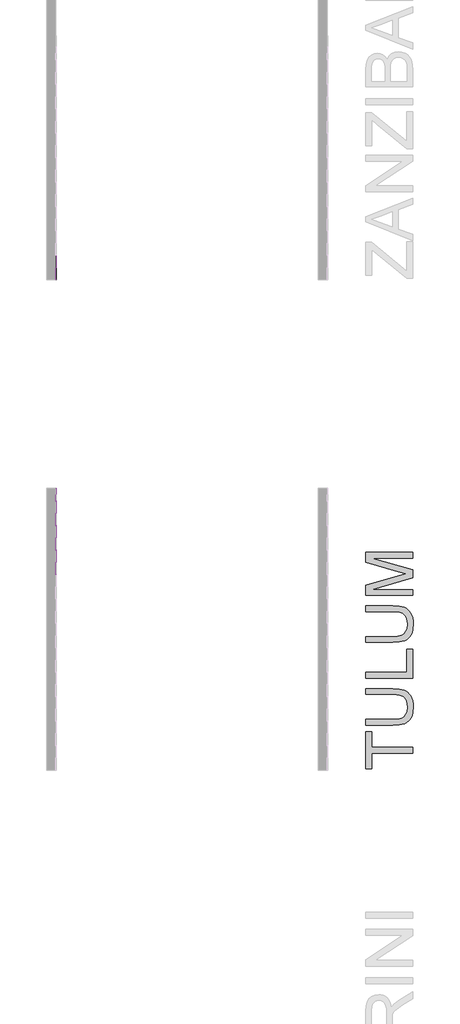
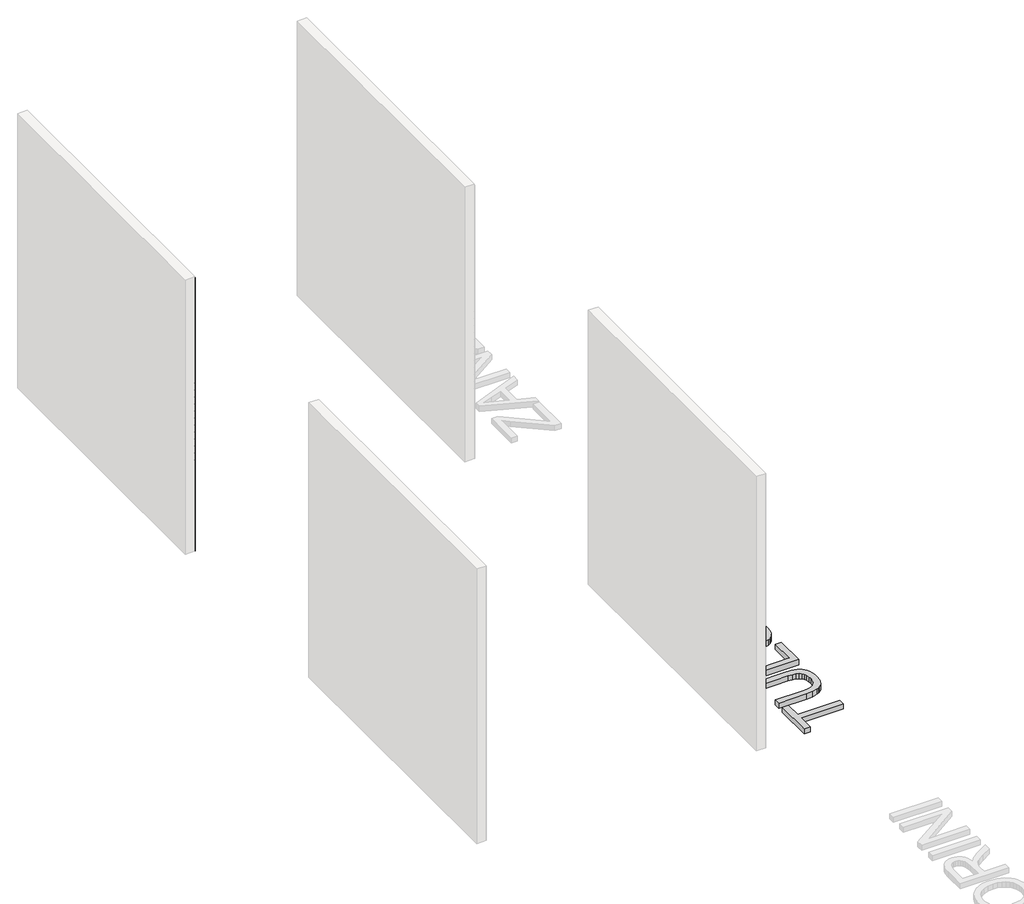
# One storey, part 36 of 45: 134 proxies.
"""IFC4 building model written with IfcOpenShell, lengths in millimetres."""

from ifc_helpers import new_model, si_unit, origin, origin_with_axes, place, context, project, spatial, polyline, outline, extrude, transform, mapped, element, save
from components import generic_models_ab0f2c30, generic_models_8360c89e

model = new_model("IFC4")

# Units and contexts
model_context = context("Model", 3, world=origin())
ifc_project = project(units=[si_unit("LENGTHUNIT", "METRE", prefix="MILLI")], contexts=[model_context])

# Site, building, storey
site = spatial("IfcSite", under=ifc_project)
building = spatial("IfcBuilding", under=site)
storey = spatial("IfcBuildingStorey", under=building, Name="PORTOBELLO - SHOWROOM", Elevation=0.0)

# Proxies
placement = place(None, origin())
generic_models_shape = generic_models_ab0f2c30(model_context)
element("IfcBuildingElementProxy", 1, Name="PBSHOP - HORIZONTES TULUM 6,5X23 : TULUM", ObjectType="PBSHOP - HORIZONTES TULUM 6,5X23 : TULUM", at=placement, inside=storey, context=model_context, shape_type="MappedRepresentation", body=[
    mapped(generic_models_shape, transform((69111.8826867, 16122.0588567, 34.5), x_axis=(0.0, 0.0, 1.0), y_axis=(0.0, -1.0, 0.0), z_axis=(1.0, 0.0, 0.0))),
])
element("IfcBuildingElementProxy", 2, Name="PBSHOP - HORIZONTES TULUM 6,5X23 : TULUM", ObjectType="PBSHOP - HORIZONTES TULUM 6,5X23 : TULUM", at=placement, inside=storey, context=model_context, shape_type="MappedRepresentation", body=[
    mapped(generic_models_shape, transform((69111.8826867, 16356.0588567, 34.5), x_axis=(0.0, 0.0, 1.0), y_axis=(0.0, -1.0, 0.0), z_axis=(1.0, 0.0, 0.0))),
])
element("IfcBuildingElementProxy", 3, Name="PBSHOP - HORIZONTES TULUM 6,5X23 : TULUM", ObjectType="PBSHOP - HORIZONTES TULUM 6,5X23 : TULUM", at=placement, inside=storey, context=model_context, shape_type="MappedRepresentation", body=[
    mapped(generic_models_shape, transform((69111.8826867, 16590.0588567, 34.5), x_axis=(0.0, 0.0, 1.0), y_axis=(0.0, -1.0, 0.0), z_axis=(1.0, 0.0, 0.0))),
])
element("IfcBuildingElementProxy", 4, Name="PBSHOP - HORIZONTES TULUM 6,5X23 : TULUM", ObjectType="PBSHOP - HORIZONTES TULUM 6,5X23 : TULUM", at=placement, inside=storey, context=model_context, shape_type="MappedRepresentation", body=[
    mapped(generic_models_shape, transform((69111.8826867, 16824.0588567, 34.5), x_axis=(0.0, 0.0, 1.0), y_axis=(0.0, -1.0, 0.0), z_axis=(1.0, 0.0, 0.0))),
])
element("IfcBuildingElementProxy", 5, Name="PBSHOP - HORIZONTES TULUM 6,5X23 : TULUM", ObjectType="PBSHOP - HORIZONTES TULUM 6,5X23 : TULUM", at=placement, inside=storey, context=model_context, shape_type="MappedRepresentation", body=[
    mapped(generic_models_shape, transform((69111.8826867, 16122.0588567, 103.5), x_axis=(0.0, 0.0, 1.0), y_axis=(0.0, -1.0, 0.0), z_axis=(1.0, 0.0, 0.0))),
])
element("IfcBuildingElementProxy", 6, Name="PBSHOP - HORIZONTES TULUM 6,5X23 : TULUM", ObjectType="PBSHOP - HORIZONTES TULUM 6,5X23 : TULUM", at=placement, inside=storey, context=model_context, shape_type="MappedRepresentation", body=[
    mapped(generic_models_shape, transform((69111.8826867, 16356.0588567, 103.5), x_axis=(0.0, 0.0, 1.0), y_axis=(0.0, -1.0, 0.0), z_axis=(1.0, 0.0, 0.0))),
])
element("IfcBuildingElementProxy", 7, Name="PBSHOP - HORIZONTES TULUM 6,5X23 : TULUM", ObjectType="PBSHOP - HORIZONTES TULUM 6,5X23 : TULUM", at=placement, inside=storey, context=model_context, shape_type="MappedRepresentation", body=[
    mapped(generic_models_shape, transform((69111.8826867, 16590.0588567, 103.5), x_axis=(0.0, 0.0, 1.0), y_axis=(0.0, -1.0, 0.0), z_axis=(1.0, 0.0, 0.0))),
])
element("IfcBuildingElementProxy", 8, Name="PBSHOP - HORIZONTES TULUM 6,5X23 : TULUM", ObjectType="PBSHOP - HORIZONTES TULUM 6,5X23 : TULUM", at=placement, inside=storey, context=model_context, shape_type="MappedRepresentation", body=[
    mapped(generic_models_shape, transform((69111.8826867, 16824.0588567, 103.5), x_axis=(0.0, 0.0, 1.0), y_axis=(0.0, -1.0, 0.0), z_axis=(1.0, 0.0, 0.0))),
])
element("IfcBuildingElementProxy", 9, Name="PBSHOP - HORIZONTES TULUM 6,5X23 : TULUM", ObjectType="PBSHOP - HORIZONTES TULUM 6,5X23 : TULUM", at=placement, inside=storey, context=model_context, shape_type="MappedRepresentation", body=[
    mapped(generic_models_shape, transform((69111.8826867, 16122.0588567, 172.5), x_axis=(0.0, 0.0, 1.0), y_axis=(0.0, -1.0, 0.0), z_axis=(1.0, 0.0, 0.0))),
])
element("IfcBuildingElementProxy", 10, Name="PBSHOP - HORIZONTES TULUM 6,5X23 : TULUM", ObjectType="PBSHOP - HORIZONTES TULUM 6,5X23 : TULUM", at=placement, inside=storey, context=model_context, shape_type="MappedRepresentation", body=[
    mapped(generic_models_shape, transform((69111.8826867, 16356.0588567, 172.5), x_axis=(0.0, 0.0, 1.0), y_axis=(0.0, -1.0, 0.0), z_axis=(1.0, 0.0, 0.0))),
])
element("IfcBuildingElementProxy", 11, Name="PBSHOP - HORIZONTES TULUM 6,5X23 : TULUM", ObjectType="PBSHOP - HORIZONTES TULUM 6,5X23 : TULUM", at=placement, inside=storey, context=model_context, shape_type="MappedRepresentation", body=[
    mapped(generic_models_shape, transform((69111.8826867, 16590.0588567, 172.5), x_axis=(0.0, 0.0, 1.0), y_axis=(0.0, -1.0, 0.0), z_axis=(1.0, 0.0, 0.0))),
])
element("IfcBuildingElementProxy", 12, Name="PBSHOP - HORIZONTES TULUM 6,5X23 : TULUM", ObjectType="PBSHOP - HORIZONTES TULUM 6,5X23 : TULUM", at=placement, inside=storey, context=model_context, shape_type="MappedRepresentation", body=[
    mapped(generic_models_shape, transform((69111.8826867, 16824.0588567, 172.5), x_axis=(0.0, 0.0, 1.0), y_axis=(0.0, -1.0, 0.0), z_axis=(1.0, 0.0, 0.0))),
])
element("IfcBuildingElementProxy", 13, Name="PBSHOP - HORIZONTES TULUM 6,5X23 : TULUM", ObjectType="PBSHOP - HORIZONTES TULUM 6,5X23 : TULUM", at=placement, inside=storey, context=model_context, shape_type="MappedRepresentation", body=[
    mapped(generic_models_shape, transform((69111.8826867, 16122.0588567, 241.5), x_axis=(0.0, 0.0, 1.0), y_axis=(0.0, -1.0, 0.0), z_axis=(1.0, 0.0, 0.0))),
])
element("IfcBuildingElementProxy", 14, Name="PBSHOP - HORIZONTES TULUM 6,5X23 : TULUM", ObjectType="PBSHOP - HORIZONTES TULUM 6,5X23 : TULUM", at=placement, inside=storey, context=model_context, shape_type="MappedRepresentation", body=[
    mapped(generic_models_shape, transform((69111.8826867, 16356.0588567, 241.5), x_axis=(0.0, 0.0, 1.0), y_axis=(0.0, -1.0, 0.0), z_axis=(1.0, 0.0, 0.0))),
])
element("IfcBuildingElementProxy", 15, Name="PBSHOP - HORIZONTES TULUM 6,5X23 : TULUM", ObjectType="PBSHOP - HORIZONTES TULUM 6,5X23 : TULUM", at=placement, inside=storey, context=model_context, shape_type="MappedRepresentation", body=[
    mapped(generic_models_shape, transform((69111.8826867, 16590.0588567, 241.5), x_axis=(0.0, 0.0, 1.0), y_axis=(0.0, -1.0, 0.0), z_axis=(1.0, 0.0, 0.0))),
])
element("IfcBuildingElementProxy", 16, Name="PBSHOP - HORIZONTES TULUM 6,5X23 : TULUM", ObjectType="PBSHOP - HORIZONTES TULUM 6,5X23 : TULUM", at=placement, inside=storey, context=model_context, shape_type="MappedRepresentation", body=[
    mapped(generic_models_shape, transform((69111.8826867, 16824.0588567, 241.5), x_axis=(0.0, 0.0, 1.0), y_axis=(0.0, -1.0, 0.0), z_axis=(1.0, 0.0, 0.0))),
])
element("IfcBuildingElementProxy", 17, Name="PBSHOP - HORIZONTES TULUM 6,5X23 : TULUM", ObjectType="PBSHOP - HORIZONTES TULUM 6,5X23 : TULUM", at=placement, inside=storey, context=model_context, shape_type="MappedRepresentation", body=[
    mapped(generic_models_shape, transform((69111.8826867, 16122.0588567, 310.5), x_axis=(0.0, 0.0, 1.0), y_axis=(0.0, -1.0, 0.0), z_axis=(1.0, 0.0, 0.0))),
])
element("IfcBuildingElementProxy", 18, Name="PBSHOP - HORIZONTES TULUM 6,5X23 : TULUM", ObjectType="PBSHOP - HORIZONTES TULUM 6,5X23 : TULUM", at=placement, inside=storey, context=model_context, shape_type="MappedRepresentation", body=[
    mapped(generic_models_shape, transform((69111.8826867, 16356.0588567, 310.5), x_axis=(0.0, 0.0, 1.0), y_axis=(0.0, -1.0, 0.0), z_axis=(1.0, 0.0, 0.0))),
])
element("IfcBuildingElementProxy", 19, Name="PBSHOP - HORIZONTES TULUM 6,5X23 : TULUM AGAVE", ObjectType="PBSHOP - HORIZONTES TULUM 6,5X23 : TULUM AGAVE", at=placement, inside=storey, context=model_context, shape_type="MappedRepresentation", body=[
    mapped(generic_models_shape, transform((66511.8826867, 17058.0588567, 1414.5), x_axis=(0.0, 0.0, 1.0), y_axis=(0.0, -1.0, 0.0), z_axis=(1.0, 0.0, 0.0))),
])
element("IfcBuildingElementProxy", 20, Name="PBSHOP - HORIZONTES TULUM 6,5X23 : TULUM AGAVE", ObjectType="PBSHOP - HORIZONTES TULUM 6,5X23 : TULUM AGAVE", at=placement, inside=storey, context=model_context, shape_type="MappedRepresentation", body=[
    mapped(generic_models_shape, transform((66511.8826867, 17292.0588567, 1414.5), x_axis=(0.0, 0.0, 1.0), y_axis=(0.0, -1.0, 0.0), z_axis=(1.0, 0.0, 0.0))),
])
element("IfcBuildingElementProxy", 21, Name="PBSHOP - HORIZONTES TULUM 6,5X23 : TULUM AGAVE", ObjectType="PBSHOP - HORIZONTES TULUM 6,5X23 : TULUM AGAVE", at=placement, inside=storey, context=model_context, shape_type="MappedRepresentation", body=[
    mapped(generic_models_shape, transform((66511.8826867, 17526.0588567, 1414.5), x_axis=(0.0, 0.0, 1.0), y_axis=(0.0, -1.0, 0.0), z_axis=(1.0, 0.0, 0.0))),
])
element("IfcBuildingElementProxy", 22, Name="PBSHOP - HORIZONTES TULUM 6,5X23 : TULUM AGAVE", ObjectType="PBSHOP - HORIZONTES TULUM 6,5X23 : TULUM AGAVE", at=placement, inside=storey, context=model_context, shape_type="MappedRepresentation", body=[
    mapped(generic_models_shape, transform((66511.8826867, 17058.0588567, 1483.5), x_axis=(0.0, 0.0, 1.0), y_axis=(0.0, -1.0, 0.0), z_axis=(1.0, 0.0, 0.0))),
])
element("IfcBuildingElementProxy", 23, Name="PBSHOP - HORIZONTES TULUM 6,5X23 : TULUM AGAVE", ObjectType="PBSHOP - HORIZONTES TULUM 6,5X23 : TULUM AGAVE", at=placement, inside=storey, context=model_context, shape_type="MappedRepresentation", body=[
    mapped(generic_models_shape, transform((66511.8826867, 17292.0588567, 1483.5), x_axis=(0.0, 0.0, 1.0), y_axis=(0.0, -1.0, 0.0), z_axis=(1.0, 0.0, 0.0))),
])
element("IfcBuildingElementProxy", 24, Name="PBSHOP - HORIZONTES TULUM 6,5X23 : TULUM AGAVE", ObjectType="PBSHOP - HORIZONTES TULUM 6,5X23 : TULUM AGAVE", at=placement, inside=storey, context=model_context, shape_type="MappedRepresentation", body=[
    mapped(generic_models_shape, transform((66511.8826867, 17526.0588567, 1483.5), x_axis=(0.0, 0.0, 1.0), y_axis=(0.0, -1.0, 0.0), z_axis=(1.0, 0.0, 0.0))),
])
element("IfcBuildingElementProxy", 25, Name="PBSHOP - HORIZONTES TULUM 6,5X23 : TULUM AGAVE", ObjectType="PBSHOP - HORIZONTES TULUM 6,5X23 : TULUM AGAVE", at=placement, inside=storey, context=model_context, shape_type="MappedRepresentation", body=[
    mapped(generic_models_shape, transform((66511.8826867, 17058.0588567, 1552.5), x_axis=(0.0, 0.0, 1.0), y_axis=(0.0, -1.0, 0.0), z_axis=(1.0, 0.0, 0.0))),
])
element("IfcBuildingElementProxy", 26, Name="PBSHOP - HORIZONTES TULUM 6,5X23 : TULUM AGAVE", ObjectType="PBSHOP - HORIZONTES TULUM 6,5X23 : TULUM AGAVE", at=placement, inside=storey, context=model_context, shape_type="MappedRepresentation", body=[
    mapped(generic_models_shape, transform((66511.8826867, 17292.0588567, 1552.5), x_axis=(0.0, 0.0, 1.0), y_axis=(0.0, -1.0, 0.0), z_axis=(1.0, 0.0, 0.0))),
])
element("IfcBuildingElementProxy", 27, Name="PBSHOP - HORIZONTES TULUM 6,5X23 : TULUM AGAVE", ObjectType="PBSHOP - HORIZONTES TULUM 6,5X23 : TULUM AGAVE", at=placement, inside=storey, context=model_context, shape_type="MappedRepresentation", body=[
    mapped(generic_models_shape, transform((66511.8826867, 17526.0588567, 1552.5), x_axis=(0.0, 0.0, 1.0), y_axis=(0.0, -1.0, 0.0), z_axis=(1.0, 0.0, 0.0))),
])
element("IfcBuildingElementProxy", 28, Name="PBSHOP - HORIZONTES TULUM 6,5X23 : TULUM AGAVE", ObjectType="PBSHOP - HORIZONTES TULUM 6,5X23 : TULUM AGAVE", at=placement, inside=storey, context=model_context, shape_type="MappedRepresentation", body=[
    mapped(generic_models_shape, transform((66511.8826867, 17058.0588567, 1621.5), x_axis=(0.0, 0.0, 1.0), y_axis=(0.0, -1.0, 0.0), z_axis=(1.0, 0.0, 0.0))),
])
element("IfcBuildingElementProxy", 29, Name="PBSHOP - HORIZONTES TULUM 6,5X23 : TULUM AGAVE", ObjectType="PBSHOP - HORIZONTES TULUM 6,5X23 : TULUM AGAVE", at=placement, inside=storey, context=model_context, shape_type="MappedRepresentation", body=[
    mapped(generic_models_shape, transform((66511.8826867, 17292.0588567, 1621.5), x_axis=(0.0, 0.0, 1.0), y_axis=(0.0, -1.0, 0.0), z_axis=(1.0, 0.0, 0.0))),
])
element("IfcBuildingElementProxy", 30, Name="PBSHOP - HORIZONTES TULUM 6,5X23 : TULUM AGAVE", ObjectType="PBSHOP - HORIZONTES TULUM 6,5X23 : TULUM AGAVE", at=placement, inside=storey, context=model_context, shape_type="MappedRepresentation", body=[
    mapped(generic_models_shape, transform((66511.8826867, 17526.0588567, 1621.5), x_axis=(0.0, 0.0, 1.0), y_axis=(0.0, -1.0, 0.0), z_axis=(1.0, 0.0, 0.0))),
])
element("IfcBuildingElementProxy", 31, Name="PBSHOP - HORIZONTES TULUM 6,5X23 : TULUM AGAVE", ObjectType="PBSHOP - HORIZONTES TULUM 6,5X23 : TULUM AGAVE", at=placement, inside=storey, context=model_context, shape_type="MappedRepresentation", body=[
    mapped(generic_models_shape, transform((66511.8826867, 17058.0588567, 1690.5), x_axis=(0.0, 0.0, 1.0), y_axis=(0.0, -1.0, 0.0), z_axis=(1.0, 0.0, 0.0))),
])
element("IfcBuildingElementProxy", 32, Name="PBSHOP - HORIZONTES TULUM 6,5X23 : TULUM AGAVE", ObjectType="PBSHOP - HORIZONTES TULUM 6,5X23 : TULUM AGAVE", at=placement, inside=storey, context=model_context, shape_type="MappedRepresentation", body=[
    mapped(generic_models_shape, transform((66511.8826867, 17292.0588567, 1690.5), x_axis=(0.0, 0.0, 1.0), y_axis=(0.0, -1.0, 0.0), z_axis=(1.0, 0.0, 0.0))),
])
element("IfcBuildingElementProxy", 33, Name="PBSHOP - HORIZONTES TULUM 6,5X23 : TULUM AGAVE", ObjectType="PBSHOP - HORIZONTES TULUM 6,5X23 : TULUM AGAVE", at=placement, inside=storey, context=model_context, shape_type="MappedRepresentation", body=[
    mapped(generic_models_shape, transform((66511.8826867, 17526.0588567, 1690.5), x_axis=(0.0, 0.0, 1.0), y_axis=(0.0, -1.0, 0.0), z_axis=(1.0, 0.0, 0.0))),
])
element("IfcBuildingElementProxy", 34, Name="PBSHOP - HORIZONTES TULUM 6,5X23 : TULUM AGAVE", ObjectType="PBSHOP - HORIZONTES TULUM 6,5X23 : TULUM AGAVE", at=placement, inside=storey, context=model_context, shape_type="MappedRepresentation", body=[
    mapped(generic_models_shape, transform((66511.8826867, 17058.0588567, 1759.5), x_axis=(0.0, 0.0, 1.0), y_axis=(0.0, -1.0, 0.0), z_axis=(1.0, 0.0, 0.0))),
])
element("IfcBuildingElementProxy", 35, Name="PBSHOP - HORIZONTES TULUM 6,5X23 : TULUM AGAVE", ObjectType="PBSHOP - HORIZONTES TULUM 6,5X23 : TULUM AGAVE", at=placement, inside=storey, context=model_context, shape_type="MappedRepresentation", body=[
    mapped(generic_models_shape, transform((66511.8826867, 17292.0588567, 1759.5), x_axis=(0.0, 0.0, 1.0), y_axis=(0.0, -1.0, 0.0), z_axis=(1.0, 0.0, 0.0))),
])
element("IfcBuildingElementProxy", 36, Name="PBSHOP - HORIZONTES TULUM 6,5X23 : TULUM AGAVE", ObjectType="PBSHOP - HORIZONTES TULUM 6,5X23 : TULUM AGAVE", at=placement, inside=storey, context=model_context, shape_type="MappedRepresentation", body=[
    mapped(generic_models_shape, transform((66511.8826867, 17526.0588567, 1759.5), x_axis=(0.0, 0.0, 1.0), y_axis=(0.0, -1.0, 0.0), z_axis=(1.0, 0.0, 0.0))),
])
element("IfcBuildingElementProxy", 37, Name="PBSHOP - HORIZONTES TULUM 6,5X23 : TULUM AGAVE", ObjectType="PBSHOP - HORIZONTES TULUM 6,5X23 : TULUM AGAVE", at=placement, inside=storey, context=model_context, shape_type="MappedRepresentation", body=[
    mapped(generic_models_shape, transform((66511.8826867, 17058.0588567, 1828.5), x_axis=(0.0, 0.0, 1.0), y_axis=(0.0, -1.0, 0.0), z_axis=(1.0, 0.0, 0.0))),
])
element("IfcBuildingElementProxy", 38, Name="PBSHOP - HORIZONTES TULUM 6,5X23 : TULUM AGAVE", ObjectType="PBSHOP - HORIZONTES TULUM 6,5X23 : TULUM AGAVE", at=placement, inside=storey, context=model_context, shape_type="MappedRepresentation", body=[
    mapped(generic_models_shape, transform((66511.8826867, 17292.0588567, 1828.5), x_axis=(0.0, 0.0, 1.0), y_axis=(0.0, -1.0, 0.0), z_axis=(1.0, 0.0, 0.0))),
])
element("IfcBuildingElementProxy", 39, Name="PBSHOP - HORIZONTES TULUM 6,5X23 : TULUM AGAVE", ObjectType="PBSHOP - HORIZONTES TULUM 6,5X23 : TULUM AGAVE", at=placement, inside=storey, context=model_context, shape_type="MappedRepresentation", body=[
    mapped(generic_models_shape, transform((66511.8826867, 17526.0588567, 1828.5), x_axis=(0.0, 0.0, 1.0), y_axis=(0.0, -1.0, 0.0), z_axis=(1.0, 0.0, 0.0))),
])
element("IfcBuildingElementProxy", 40, Name="PBSHOP - HORIZONTES TULUM 6,5X23 : TULUM AGAVE", ObjectType="PBSHOP - HORIZONTES TULUM 6,5X23 : TULUM AGAVE", at=placement, inside=storey, context=model_context, shape_type="MappedRepresentation", body=[
    mapped(generic_models_shape, transform((66511.8826867, 17058.0588567, 1897.5), x_axis=(0.0, 0.0, 1.0), y_axis=(0.0, -1.0, 0.0), z_axis=(1.0, 0.0, 0.0))),
])
element("IfcBuildingElementProxy", 41, Name="PBSHOP - HORIZONTES TULUM 6,5X23 : TULUM AGAVE", ObjectType="PBSHOP - HORIZONTES TULUM 6,5X23 : TULUM AGAVE", at=placement, inside=storey, context=model_context, shape_type="MappedRepresentation", body=[
    mapped(generic_models_shape, transform((66511.8826867, 17292.0588567, 1897.5), x_axis=(0.0, 0.0, 1.0), y_axis=(0.0, -1.0, 0.0), z_axis=(1.0, 0.0, 0.0))),
])
element("IfcBuildingElementProxy", 42, Name="PBSHOP - HORIZONTES TULUM 6,5X23 : TULUM AGAVE", ObjectType="PBSHOP - HORIZONTES TULUM 6,5X23 : TULUM AGAVE", at=placement, inside=storey, context=model_context, shape_type="MappedRepresentation", body=[
    mapped(generic_models_shape, transform((66511.8826867, 17526.0588567, 1897.5), x_axis=(0.0, 0.0, 1.0), y_axis=(0.0, -1.0, 0.0), z_axis=(1.0, 0.0, 0.0))),
])
element("IfcBuildingElementProxy", 43, Name="PBSHOP - HORIZONTES TULUM 6,5X23 : TULUM AGAVE", ObjectType="PBSHOP - HORIZONTES TULUM 6,5X23 : TULUM AGAVE", at=placement, inside=storey, context=model_context, shape_type="MappedRepresentation", body=[
    mapped(generic_models_shape, transform((66511.8826867, 17058.0588567, 1966.5), x_axis=(0.0, 0.0, 1.0), y_axis=(0.0, -1.0, 0.0), z_axis=(1.0, 0.0, 0.0))),
])
element("IfcBuildingElementProxy", 44, Name="PBSHOP - HORIZONTES TULUM 6,5X23 : TULUM AGAVE", ObjectType="PBSHOP - HORIZONTES TULUM 6,5X23 : TULUM AGAVE", at=placement, inside=storey, context=model_context, shape_type="MappedRepresentation", body=[
    mapped(generic_models_shape, transform((66511.8826867, 17292.0588567, 1966.5), x_axis=(0.0, 0.0, 1.0), y_axis=(0.0, -1.0, 0.0), z_axis=(1.0, 0.0, 0.0))),
])
element("IfcBuildingElementProxy", 45, Name="PBSHOP - HORIZONTES TULUM 6,5X23 : TULUM AGAVE", ObjectType="PBSHOP - HORIZONTES TULUM 6,5X23 : TULUM AGAVE", at=placement, inside=storey, context=model_context, shape_type="MappedRepresentation", body=[
    mapped(generic_models_shape, transform((66511.8826867, 17526.0588567, 1966.5), x_axis=(0.0, 0.0, 1.0), y_axis=(0.0, -1.0, 0.0), z_axis=(1.0, 0.0, 0.0))),
])
element("IfcBuildingElementProxy", 46, Name="PBSHOP - HORIZONTES TULUM 6,5X23 : TULUM AGAVE", ObjectType="PBSHOP - HORIZONTES TULUM 6,5X23 : TULUM AGAVE", at=placement, inside=storey, context=model_context, shape_type="MappedRepresentation", body=[
    mapped(generic_models_shape, transform((66511.8826867, 17058.0588567, 2035.5), x_axis=(0.0, 0.0, 1.0), y_axis=(0.0, -1.0, 0.0), z_axis=(1.0, 0.0, 0.0))),
])
element("IfcBuildingElementProxy", 47, Name="PBSHOP - HORIZONTES TULUM 6,5X23 : TULUM AGAVE", ObjectType="PBSHOP - HORIZONTES TULUM 6,5X23 : TULUM AGAVE", at=placement, inside=storey, context=model_context, shape_type="MappedRepresentation", body=[
    mapped(generic_models_shape, transform((66511.8826867, 17292.0588567, 2035.5), x_axis=(0.0, 0.0, 1.0), y_axis=(0.0, -1.0, 0.0), z_axis=(1.0, 0.0, 0.0))),
])
element("IfcBuildingElementProxy", 48, Name="PBSHOP - HORIZONTES TULUM 6,5X23 : TULUM AGAVE", ObjectType="PBSHOP - HORIZONTES TULUM 6,5X23 : TULUM AGAVE", at=placement, inside=storey, context=model_context, shape_type="MappedRepresentation", body=[
    mapped(generic_models_shape, transform((66511.8826867, 17526.0588567, 2035.5), x_axis=(0.0, 0.0, 1.0), y_axis=(0.0, -1.0, 0.0), z_axis=(1.0, 0.0, 0.0))),
])
element("IfcBuildingElementProxy", 49, Name="PBSHOP - HORIZONTES TULUM 6,5X23 : TULUM AGAVE", ObjectType="PBSHOP - HORIZONTES TULUM 6,5X23 : TULUM AGAVE", at=placement, inside=storey, context=model_context, shape_type="MappedRepresentation", body=[
    mapped(generic_models_shape, transform((66511.8826867, 17058.0588567, 2104.5), x_axis=(0.0, 0.0, 1.0), y_axis=(0.0, -1.0, 0.0), z_axis=(1.0, 0.0, 0.0))),
])
element("IfcBuildingElementProxy", 50, Name="PBSHOP - HORIZONTES TULUM 6,5X23 : TULUM AGAVE", ObjectType="PBSHOP - HORIZONTES TULUM 6,5X23 : TULUM AGAVE", at=placement, inside=storey, context=model_context, shape_type="MappedRepresentation", body=[
    mapped(generic_models_shape, transform((66511.8826867, 17292.0588567, 2104.5), x_axis=(0.0, 0.0, 1.0), y_axis=(0.0, -1.0, 0.0), z_axis=(1.0, 0.0, 0.0))),
])
element("IfcBuildingElementProxy", 51, Name="PBSHOP - HORIZONTES TULUM 6,5X23 : TULUM AGAVE", ObjectType="PBSHOP - HORIZONTES TULUM 6,5X23 : TULUM AGAVE", at=placement, inside=storey, context=model_context, shape_type="MappedRepresentation", body=[
    mapped(generic_models_shape, transform((66511.8826867, 17526.0588567, 2104.5), x_axis=(0.0, 0.0, 1.0), y_axis=(0.0, -1.0, 0.0), z_axis=(1.0, 0.0, 0.0))),
])
element("IfcBuildingElementProxy", 52, Name="PBSHOP - HORIZONTES TULUM 6,5X23 : TULUM AGAVE", ObjectType="PBSHOP - HORIZONTES TULUM 6,5X23 : TULUM AGAVE", at=placement, inside=storey, context=model_context, shape_type="MappedRepresentation", body=[
    mapped(generic_models_shape, transform((66511.8826867, 17058.0588567, 2173.5), x_axis=(0.0, 0.0, 1.0), y_axis=(0.0, -1.0, 0.0), z_axis=(1.0, 0.0, 0.0))),
])
element("IfcBuildingElementProxy", 53, Name="PBSHOP - HORIZONTES TULUM 6,5X23 : TULUM AGAVE", ObjectType="PBSHOP - HORIZONTES TULUM 6,5X23 : TULUM AGAVE", at=placement, inside=storey, context=model_context, shape_type="MappedRepresentation", body=[
    mapped(generic_models_shape, transform((66511.8826867, 17292.0588567, 2173.5), x_axis=(0.0, 0.0, 1.0), y_axis=(0.0, -1.0, 0.0), z_axis=(1.0, 0.0, 0.0))),
])
element("IfcBuildingElementProxy", 54, Name="PBSHOP - HORIZONTES TULUM 6,5X23 : TULUM AGAVE", ObjectType="PBSHOP - HORIZONTES TULUM 6,5X23 : TULUM AGAVE", at=placement, inside=storey, context=model_context, shape_type="MappedRepresentation", body=[
    mapped(generic_models_shape, transform((66511.8826867, 17526.0588567, 2173.5), x_axis=(0.0, 0.0, 1.0), y_axis=(0.0, -1.0, 0.0), z_axis=(1.0, 0.0, 0.0))),
])
element("IfcBuildingElementProxy", 55, Name="PBSHOP - HORIZONTES TULUM 6,5X23 : TULUM AGAVE", ObjectType="PBSHOP - HORIZONTES TULUM 6,5X23 : TULUM AGAVE", at=placement, inside=storey, context=model_context, shape_type="MappedRepresentation", body=[
    mapped(generic_models_shape, transform((66511.8826867, 17058.0588567, 2242.5), x_axis=(0.0, 0.0, 1.0), y_axis=(0.0, -1.0, 0.0), z_axis=(1.0, 0.0, 0.0))),
])
element("IfcBuildingElementProxy", 56, Name="PBSHOP - HORIZONTES TULUM 6,5X23 : TULUM AGAVE", ObjectType="PBSHOP - HORIZONTES TULUM 6,5X23 : TULUM AGAVE", at=placement, inside=storey, context=model_context, shape_type="MappedRepresentation", body=[
    mapped(generic_models_shape, transform((66511.8826867, 17292.0588567, 2242.5), x_axis=(0.0, 0.0, 1.0), y_axis=(0.0, -1.0, 0.0), z_axis=(1.0, 0.0, 0.0))),
])
element("IfcBuildingElementProxy", 57, Name="PBSHOP - HORIZONTES TULUM 6,5X23 : TULUM AGAVE", ObjectType="PBSHOP - HORIZONTES TULUM 6,5X23 : TULUM AGAVE", at=placement, inside=storey, context=model_context, shape_type="MappedRepresentation", body=[
    mapped(generic_models_shape, transform((66511.8826867, 17526.0588567, 2242.5), x_axis=(0.0, 0.0, 1.0), y_axis=(0.0, -1.0, 0.0), z_axis=(1.0, 0.0, 0.0))),
])
element("IfcBuildingElementProxy", 58, Name="PBSHOP - HORIZONTES TULUM 6,5X23 : TULUM AGAVE", ObjectType="PBSHOP - HORIZONTES TULUM 6,5X23 : TULUM AGAVE", at=placement, inside=storey, context=model_context, shape_type="MappedRepresentation", body=[
    mapped(generic_models_shape, transform((66511.8826867, 17058.0588567, 2311.5), x_axis=(0.0, 0.0, 1.0), y_axis=(0.0, -1.0, 0.0), z_axis=(1.0, 0.0, 0.0))),
])
element("IfcBuildingElementProxy", 59, Name="PBSHOP - HORIZONTES TULUM 6,5X23 : TULUM AGAVE", ObjectType="PBSHOP - HORIZONTES TULUM 6,5X23 : TULUM AGAVE", at=placement, inside=storey, context=model_context, shape_type="MappedRepresentation", body=[
    mapped(generic_models_shape, transform((66511.8826867, 17292.0588567, 2311.5), x_axis=(0.0, 0.0, 1.0), y_axis=(0.0, -1.0, 0.0), z_axis=(1.0, 0.0, 0.0))),
])
element("IfcBuildingElementProxy", 60, Name="PBSHOP - HORIZONTES TULUM 6,5X23 : TULUM AGAVE", ObjectType="PBSHOP - HORIZONTES TULUM 6,5X23 : TULUM AGAVE", at=placement, inside=storey, context=model_context, shape_type="MappedRepresentation", body=[
    mapped(generic_models_shape, transform((66511.8826867, 17526.0588567, 2311.5), x_axis=(0.0, 0.0, 1.0), y_axis=(0.0, -1.0, 0.0), z_axis=(1.0, 0.0, 0.0))),
])
element("IfcBuildingElementProxy", 61, Name="PBSHOP - HORIZONTES TULUM 6,5X23 : TULUM AGAVE", ObjectType="PBSHOP - HORIZONTES TULUM 6,5X23 : TULUM AGAVE", at=placement, inside=storey, context=model_context, shape_type="MappedRepresentation", body=[
    mapped(generic_models_shape, transform((66511.8826867, 17058.0588567, 2380.5), x_axis=(0.0, 0.0, 1.0), y_axis=(0.0, -1.0, 0.0), z_axis=(1.0, 0.0, 0.0))),
])
element("IfcBuildingElementProxy", 62, Name="PBSHOP - HORIZONTES TULUM 6,5X23 : TULUM AGAVE", ObjectType="PBSHOP - HORIZONTES TULUM 6,5X23 : TULUM AGAVE", at=placement, inside=storey, context=model_context, shape_type="MappedRepresentation", body=[
    mapped(generic_models_shape, transform((66511.8826867, 17292.0588567, 2380.5), x_axis=(0.0, 0.0, 1.0), y_axis=(0.0, -1.0, 0.0), z_axis=(1.0, 0.0, 0.0))),
])
element("IfcBuildingElementProxy", 63, Name="PBSHOP - HORIZONTES TULUM 6,5X23 : TULUM AGAVE", ObjectType="PBSHOP - HORIZONTES TULUM 6,5X23 : TULUM AGAVE", at=placement, inside=storey, context=model_context, shape_type="MappedRepresentation", body=[
    mapped(generic_models_shape, transform((66511.8826867, 17526.0588567, 2380.5), x_axis=(0.0, 0.0, 1.0), y_axis=(0.0, -1.0, 0.0), z_axis=(1.0, 0.0, 0.0))),
])
element("IfcBuildingElementProxy", 64, Name="PBSHOP - HORIZONTES TULUM 6,5X23 : TULUM AGAVE", ObjectType="PBSHOP - HORIZONTES TULUM 6,5X23 : TULUM AGAVE", at=placement, inside=storey, context=model_context, shape_type="MappedRepresentation", body=[
    mapped(generic_models_shape, transform((66511.8826867, 17058.0588567, 2449.5), x_axis=(0.0, 0.0, 1.0), y_axis=(0.0, -1.0, 0.0), z_axis=(1.0, 0.0, 0.0))),
])
element("IfcBuildingElementProxy", 65, Name="PBSHOP - HORIZONTES TULUM 6,5X23 : TULUM AGAVE", ObjectType="PBSHOP - HORIZONTES TULUM 6,5X23 : TULUM AGAVE", at=placement, inside=storey, context=model_context, shape_type="MappedRepresentation", body=[
    mapped(generic_models_shape, transform((66511.8826867, 17292.0588567, 2449.5), x_axis=(0.0, 0.0, 1.0), y_axis=(0.0, -1.0, 0.0), z_axis=(1.0, 0.0, 0.0))),
])
element("IfcBuildingElementProxy", 66, Name="PBSHOP - HORIZONTES TULUM 6,5X23 : TULUM AGAVE", ObjectType="PBSHOP - HORIZONTES TULUM 6,5X23 : TULUM AGAVE", at=placement, inside=storey, context=model_context, shape_type="MappedRepresentation", body=[
    mapped(generic_models_shape, transform((66511.8826867, 17526.0588567, 2449.5), x_axis=(0.0, 0.0, 1.0), y_axis=(0.0, -1.0, 0.0), z_axis=(1.0, 0.0, 0.0))),
])
element("IfcBuildingElementProxy", 67, Name="PBSHOP - HORIZONTES TULUM 6,5X23 : TULUM AGAVE", ObjectType="PBSHOP - HORIZONTES TULUM 6,5X23 : TULUM AGAVE", at=placement, inside=storey, context=model_context, shape_type="MappedRepresentation", body=[
    mapped(generic_models_shape, transform((66511.8826867, 17058.0588567, 2518.5), x_axis=(0.0, 0.0, 1.0), y_axis=(0.0, -1.0, 0.0), z_axis=(1.0, 0.0, 0.0))),
])
element("IfcBuildingElementProxy", 68, Name="PBSHOP - HORIZONTES TULUM 6,5X23 : TULUM AGAVE", ObjectType="PBSHOP - HORIZONTES TULUM 6,5X23 : TULUM AGAVE", at=placement, inside=storey, context=model_context, shape_type="MappedRepresentation", body=[
    mapped(generic_models_shape, transform((66511.8826867, 17292.0588567, 2518.5), x_axis=(0.0, 0.0, 1.0), y_axis=(0.0, -1.0, 0.0), z_axis=(1.0, 0.0, 0.0))),
])
element("IfcBuildingElementProxy", 69, Name="PBSHOP - HORIZONTES TULUM 6,5X23 : TULUM AGAVE", ObjectType="PBSHOP - HORIZONTES TULUM 6,5X23 : TULUM AGAVE", at=placement, inside=storey, context=model_context, shape_type="MappedRepresentation", body=[
    mapped(generic_models_shape, transform((66511.8826867, 17526.0588567, 2518.5), x_axis=(0.0, 0.0, 1.0), y_axis=(0.0, -1.0, 0.0), z_axis=(1.0, 0.0, 0.0))),
])
element("IfcBuildingElementProxy", 70, Name="PBSHOP - HORIZONTES TULUM 6,5X23 : TULUM AGAVE", ObjectType="PBSHOP - HORIZONTES TULUM 6,5X23 : TULUM AGAVE", at=placement, inside=storey, context=model_context, shape_type="MappedRepresentation", body=[
    mapped(generic_models_shape, transform((66511.8826867, 17058.0588567, 2587.5), x_axis=(0.0, 0.0, 1.0), y_axis=(0.0, -1.0, 0.0), z_axis=(1.0, 0.0, 0.0))),
])
element("IfcBuildingElementProxy", 71, Name="PBSHOP - HORIZONTES TULUM 6,5X23 : TULUM AGAVE", ObjectType="PBSHOP - HORIZONTES TULUM 6,5X23 : TULUM AGAVE", at=placement, inside=storey, context=model_context, shape_type="MappedRepresentation", body=[
    mapped(generic_models_shape, transform((66511.8826867, 17292.0588567, 2587.5), x_axis=(0.0, 0.0, 1.0), y_axis=(0.0, -1.0, 0.0), z_axis=(1.0, 0.0, 0.0))),
])
element("IfcBuildingElementProxy", 72, Name="PBSHOP - HORIZONTES TULUM 6,5X23 : TULUM AGAVE", ObjectType="PBSHOP - HORIZONTES TULUM 6,5X23 : TULUM AGAVE", at=placement, inside=storey, context=model_context, shape_type="MappedRepresentation", body=[
    mapped(generic_models_shape, transform((66511.8826867, 17526.0588567, 2587.5), x_axis=(0.0, 0.0, 1.0), y_axis=(0.0, -1.0, 0.0), z_axis=(1.0, 0.0, 0.0))),
])
element("IfcBuildingElementProxy", 73, Name="PBSHOP - HORIZONTES TULUM 6,5X23 : TULUM AGAVE", ObjectType="PBSHOP - HORIZONTES TULUM 6,5X23 : TULUM AGAVE", at=placement, inside=storey, context=model_context, shape_type="MappedRepresentation", body=[
    mapped(generic_models_shape, transform((66511.8826867, 17058.0588567, 2656.5), x_axis=(0.0, 0.0, 1.0), y_axis=(0.0, -1.0, 0.0), z_axis=(1.0, 0.0, 0.0))),
])
element("IfcBuildingElementProxy", 74, Name="PBSHOP - HORIZONTES TULUM 6,5X23 : TULUM AGAVE", ObjectType="PBSHOP - HORIZONTES TULUM 6,5X23 : TULUM AGAVE", at=placement, inside=storey, context=model_context, shape_type="MappedRepresentation", body=[
    mapped(generic_models_shape, transform((66511.8826867, 17292.0588567, 2656.5), x_axis=(0.0, 0.0, 1.0), y_axis=(0.0, -1.0, 0.0), z_axis=(1.0, 0.0, 0.0))),
])
element("IfcBuildingElementProxy", 75, Name="PBSHOP - HORIZONTES TULUM 6,5X23 : TULUM AGAVE", ObjectType="PBSHOP - HORIZONTES TULUM 6,5X23 : TULUM AGAVE", at=placement, inside=storey, context=model_context, shape_type="MappedRepresentation", body=[
    mapped(generic_models_shape, transform((66511.8826867, 17526.0588567, 2656.5), x_axis=(0.0, 0.0, 1.0), y_axis=(0.0, -1.0, 0.0), z_axis=(1.0, 0.0, 0.0))),
])
element("IfcBuildingElementProxy", 76, Name="PBSHOP - HORIZONTES ZANZIBAR 6,5X23 : ZANZIBAR ARQUIPELAGO", ObjectType="PBSHOP - HORIZONTES ZANZIBAR 6,5X23 : ZANZIBAR ARQUIPELAGO", at=placement, inside=storey, context=model_context, shape_type="MappedRepresentation", body=[
    mapped(generic_models_shape, transform((66511.8826867, 19880.0864672, 34.5), x_axis=(0.0, 0.0, 1.0), y_axis=(0.0, -1.0, 0.0), z_axis=(1.0, 0.0, 0.0))),
])
element("IfcBuildingElementProxy", 77, Name="PBSHOP - HORIZONTES ZANZIBAR 6,5X23 : ZANZIBAR ARQUIPELAGO", ObjectType="PBSHOP - HORIZONTES ZANZIBAR 6,5X23 : ZANZIBAR ARQUIPELAGO", at=placement, inside=storey, context=model_context, shape_type="MappedRepresentation", body=[
    mapped(generic_models_shape, transform((66511.8826867, 19880.0864672, 103.5), x_axis=(0.0, 0.0, 1.0), y_axis=(0.0, -1.0, 0.0), z_axis=(1.0, 0.0, 0.0))),
])
element("IfcBuildingElementProxy", 78, Name="PBSHOP - HORIZONTES ZANZIBAR 6,5X23 : ZANZIBAR ARQUIPELAGO", ObjectType="PBSHOP - HORIZONTES ZANZIBAR 6,5X23 : ZANZIBAR ARQUIPELAGO", at=placement, inside=storey, context=model_context, shape_type="MappedRepresentation", body=[
    mapped(generic_models_shape, transform((66511.8826867, 19880.0864672, 172.5), x_axis=(0.0, 0.0, 1.0), y_axis=(0.0, -1.0, 0.0), z_axis=(1.0, 0.0, 0.0))),
])
element("IfcBuildingElementProxy", 79, Name="PBSHOP - HORIZONTES ZANZIBAR 6,5X23 : ZANZIBAR ARQUIPELAGO", ObjectType="PBSHOP - HORIZONTES ZANZIBAR 6,5X23 : ZANZIBAR ARQUIPELAGO", at=placement, inside=storey, context=model_context, shape_type="MappedRepresentation", body=[
    mapped(generic_models_shape, transform((66511.8826867, 19880.0864672, 241.5), x_axis=(0.0, 0.0, 1.0), y_axis=(0.0, -1.0, 0.0), z_axis=(1.0, 0.0, 0.0))),
])
element("IfcBuildingElementProxy", 80, Name="PBSHOP - HORIZONTES ZANZIBAR 6,5X23 : ZANZIBAR ARQUIPELAGO", ObjectType="PBSHOP - HORIZONTES ZANZIBAR 6,5X23 : ZANZIBAR ARQUIPELAGO", at=placement, inside=storey, context=model_context, shape_type="MappedRepresentation", body=[
    mapped(generic_models_shape, transform((66511.8826867, 19880.0864672, 310.5), x_axis=(0.0, 0.0, 1.0), y_axis=(0.0, -1.0, 0.0), z_axis=(1.0, 0.0, 0.0))),
])
element("IfcBuildingElementProxy", 81, Name="PBSHOP - HORIZONTES ZANZIBAR 6,5X23 : ZANZIBAR ARQUIPELAGO", ObjectType="PBSHOP - HORIZONTES ZANZIBAR 6,5X23 : ZANZIBAR ARQUIPELAGO", at=placement, inside=storey, context=model_context, shape_type="MappedRepresentation", body=[
    mapped(generic_models_shape, transform((66511.8826867, 19880.0864672, 379.5), x_axis=(0.0, 0.0, 1.0), y_axis=(0.0, -1.0, 0.0), z_axis=(1.0, 0.0, 0.0))),
])
element("IfcBuildingElementProxy", 82, Name="PBSHOP - HORIZONTES ZANZIBAR 6,5X23 : ZANZIBAR ARQUIPELAGO", ObjectType="PBSHOP - HORIZONTES ZANZIBAR 6,5X23 : ZANZIBAR ARQUIPELAGO", at=placement, inside=storey, context=model_context, shape_type="MappedRepresentation", body=[
    mapped(generic_models_shape, transform((66511.8826867, 19880.0864672, 448.5), x_axis=(0.0, 0.0, 1.0), y_axis=(0.0, -1.0, 0.0), z_axis=(1.0, 0.0, 0.0))),
])
element("IfcBuildingElementProxy", 83, Name="PBSHOP - HORIZONTES ZANZIBAR 6,5X23 : ZANZIBAR ARQUIPELAGO", ObjectType="PBSHOP - HORIZONTES ZANZIBAR 6,5X23 : ZANZIBAR ARQUIPELAGO", at=placement, inside=storey, context=model_context, shape_type="MappedRepresentation", body=[
    mapped(generic_models_shape, transform((66511.8826867, 19880.0864672, 517.5), x_axis=(0.0, 0.0, 1.0), y_axis=(0.0, -1.0, 0.0), z_axis=(1.0, 0.0, 0.0))),
])
element("IfcBuildingElementProxy", 84, Name="PBSHOP - HORIZONTES ZANZIBAR 6,5X23 : ZANZIBAR ARQUIPELAGO", ObjectType="PBSHOP - HORIZONTES ZANZIBAR 6,5X23 : ZANZIBAR ARQUIPELAGO", at=placement, inside=storey, context=model_context, shape_type="MappedRepresentation", body=[
    mapped(generic_models_shape, transform((66511.8826867, 19880.0864672, 586.5), x_axis=(0.0, 0.0, 1.0), y_axis=(0.0, -1.0, 0.0), z_axis=(1.0, 0.0, 0.0))),
])
element("IfcBuildingElementProxy", 85, Name="PBSHOP - HORIZONTES ZANZIBAR 6,5X23 : ZANZIBAR ARQUIPELAGO", ObjectType="PBSHOP - HORIZONTES ZANZIBAR 6,5X23 : ZANZIBAR ARQUIPELAGO", at=placement, inside=storey, context=model_context, shape_type="MappedRepresentation", body=[
    mapped(generic_models_shape, transform((66511.8826867, 19880.0864672, 655.5), x_axis=(0.0, 0.0, 1.0), y_axis=(0.0, -1.0, 0.0), z_axis=(1.0, 0.0, 0.0))),
])
element("IfcBuildingElementProxy", 86, Name="PBSHOP - HORIZONTES ZANZIBAR 6,5X23 : ZANZIBAR ARQUIPELAGO", ObjectType="PBSHOP - HORIZONTES ZANZIBAR 6,5X23 : ZANZIBAR ARQUIPELAGO", at=placement, inside=storey, context=model_context, shape_type="MappedRepresentation", body=[
    mapped(generic_models_shape, transform((66511.8826867, 19880.0864672, 724.5), x_axis=(0.0, 0.0, 1.0), y_axis=(0.0, -1.0, 0.0), z_axis=(1.0, 0.0, 0.0))),
])
element("IfcBuildingElementProxy", 87, Name="PBSHOP - HORIZONTES ZANZIBAR 6,5X23 : ZANZIBAR ARQUIPELAGO", ObjectType="PBSHOP - HORIZONTES ZANZIBAR 6,5X23 : ZANZIBAR ARQUIPELAGO", at=placement, inside=storey, context=model_context, shape_type="MappedRepresentation", body=[
    mapped(generic_models_shape, transform((66511.8826867, 19880.0864672, 793.5), x_axis=(0.0, 0.0, 1.0), y_axis=(0.0, -1.0, 0.0), z_axis=(1.0, 0.0, 0.0))),
])
element("IfcBuildingElementProxy", 88, Name="PBSHOP - HORIZONTES ZANZIBAR 6,5X23 : ZANZIBAR ARQUIPELAGO", ObjectType="PBSHOP - HORIZONTES ZANZIBAR 6,5X23 : ZANZIBAR ARQUIPELAGO", at=placement, inside=storey, context=model_context, shape_type="MappedRepresentation", body=[
    mapped(generic_models_shape, transform((66511.8826867, 19880.0864672, 862.5), x_axis=(0.0, 0.0, 1.0), y_axis=(0.0, -1.0, 0.0), z_axis=(1.0, 0.0, 0.0))),
])
element("IfcBuildingElementProxy", 89, Name="PBSHOP - HORIZONTES ZANZIBAR 6,5X23 : ZANZIBAR ARQUIPELAGO", ObjectType="PBSHOP - HORIZONTES ZANZIBAR 6,5X23 : ZANZIBAR ARQUIPELAGO", at=placement, inside=storey, context=model_context, shape_type="MappedRepresentation", body=[
    mapped(generic_models_shape, transform((66511.8826867, 19880.0864672, 931.5), x_axis=(0.0, 0.0, 1.0), y_axis=(0.0, -1.0, 0.0), z_axis=(1.0, 0.0, 0.0))),
])
element("IfcBuildingElementProxy", 90, Name="PBSHOP - HORIZONTES ZANZIBAR 6,5X23 : ZANZIBAR ARQUIPELAGO", ObjectType="PBSHOP - HORIZONTES ZANZIBAR 6,5X23 : ZANZIBAR ARQUIPELAGO", at=placement, inside=storey, context=model_context, shape_type="MappedRepresentation", body=[
    mapped(generic_models_shape, transform((66511.8826867, 19880.0864672, 1000.5), x_axis=(0.0, 0.0, 1.0), y_axis=(0.0, -1.0, 0.0), z_axis=(1.0, 0.0, 0.0))),
])
element("IfcBuildingElementProxy", 91, Name="PBSHOP - HORIZONTES ZANZIBAR 6,5X23 : ZANZIBAR ARQUIPELAGO", ObjectType="PBSHOP - HORIZONTES ZANZIBAR 6,5X23 : ZANZIBAR ARQUIPELAGO", at=placement, inside=storey, context=model_context, shape_type="MappedRepresentation", body=[
    mapped(generic_models_shape, transform((66511.8826867, 19880.0864672, 1069.5), x_axis=(0.0, 0.0, 1.0), y_axis=(0.0, -1.0, 0.0), z_axis=(1.0, 0.0, 0.0))),
])
element("IfcBuildingElementProxy", 92, Name="PBSHOP - HORIZONTES ZANZIBAR 6,5X23 : ZANZIBAR ARQUIPELAGO", ObjectType="PBSHOP - HORIZONTES ZANZIBAR 6,5X23 : ZANZIBAR ARQUIPELAGO", at=placement, inside=storey, context=model_context, shape_type="MappedRepresentation", body=[
    mapped(generic_models_shape, transform((66511.8826867, 19880.0864672, 1138.5), x_axis=(0.0, 0.0, 1.0), y_axis=(0.0, -1.0, 0.0), z_axis=(1.0, 0.0, 0.0))),
])
element("IfcBuildingElementProxy", 93, Name="PBSHOP - HORIZONTES ZANZIBAR 6,5X23 : ZANZIBAR ARQUIPELAGO", ObjectType="PBSHOP - HORIZONTES ZANZIBAR 6,5X23 : ZANZIBAR ARQUIPELAGO", at=placement, inside=storey, context=model_context, shape_type="MappedRepresentation", body=[
    mapped(generic_models_shape, transform((66511.8826867, 19880.0864672, 1207.5), x_axis=(0.0, 0.0, 1.0), y_axis=(0.0, -1.0, 0.0), z_axis=(1.0, 0.0, 0.0))),
])
element("IfcBuildingElementProxy", 94, Name="PBSHOP - HORIZONTES ZANZIBAR 6,5X23 : ZANZIBAR ARQUIPELAGO", ObjectType="PBSHOP - HORIZONTES ZANZIBAR 6,5X23 : ZANZIBAR ARQUIPELAGO", at=placement, inside=storey, context=model_context, shape_type="MappedRepresentation", body=[
    mapped(generic_models_shape, transform((66511.8826867, 19880.0864672, 1276.5), x_axis=(0.0, 0.0, 1.0), y_axis=(0.0, -1.0, 0.0), z_axis=(1.0, 0.0, 0.0))),
])
element("IfcBuildingElementProxy", 95, Name="PBSHOP - HORIZONTES ZANZIBAR 6,5X23 : ZANZIBAR ARQUIPELAGO", ObjectType="PBSHOP - HORIZONTES ZANZIBAR 6,5X23 : ZANZIBAR ARQUIPELAGO", at=placement, inside=storey, context=model_context, shape_type="MappedRepresentation", body=[
    mapped(generic_models_shape, transform((66511.8826867, 19880.0864672, 1345.5), x_axis=(0.0, 0.0, 1.0), y_axis=(0.0, -1.0, 0.0), z_axis=(1.0, 0.0, 0.0))),
])
element("IfcBuildingElementProxy", 96, Name="PBSHOP - HORIZONTES ZANZIBAR 6,5X23 : ZANZIBAR ARQUIPELAGO", ObjectType="PBSHOP - HORIZONTES ZANZIBAR 6,5X23 : ZANZIBAR ARQUIPELAGO", at=placement, inside=storey, context=model_context, shape_type="MappedRepresentation", body=[
    mapped(generic_models_shape, transform((66511.8826867, 19880.0864672, 1414.5), x_axis=(0.0, 0.0, 1.0), y_axis=(0.0, -1.0, 0.0), z_axis=(1.0, 0.0, 0.0))),
])
element("IfcBuildingElementProxy", 97, Name="PBSHOP - HORIZONTES ZANZIBAR 6,5X23 : ZANZIBAR ARQUIPELAGO", ObjectType="PBSHOP - HORIZONTES ZANZIBAR 6,5X23 : ZANZIBAR ARQUIPELAGO", at=placement, inside=storey, context=model_context, shape_type="MappedRepresentation", body=[
    mapped(generic_models_shape, transform((66511.8826867, 19880.0864672, 1483.5), x_axis=(0.0, 0.0, 1.0), y_axis=(0.0, -1.0, 0.0), z_axis=(1.0, 0.0, 0.0))),
])
element("IfcBuildingElementProxy", 98, Name="PBSHOP - HORIZONTES ZANZIBAR 6,5X23 : ZANZIBAR ARQUIPELAGO", ObjectType="PBSHOP - HORIZONTES ZANZIBAR 6,5X23 : ZANZIBAR ARQUIPELAGO", at=placement, inside=storey, context=model_context, shape_type="MappedRepresentation", body=[
    mapped(generic_models_shape, transform((66511.8826867, 19880.0864672, 1552.5), x_axis=(0.0, 0.0, 1.0), y_axis=(0.0, -1.0, 0.0), z_axis=(1.0, 0.0, 0.0))),
])
element("IfcBuildingElementProxy", 99, Name="PBSHOP - HORIZONTES ZANZIBAR 6,5X23 : ZANZIBAR ARQUIPELAGO", ObjectType="PBSHOP - HORIZONTES ZANZIBAR 6,5X23 : ZANZIBAR ARQUIPELAGO", at=placement, inside=storey, context=model_context, shape_type="MappedRepresentation", body=[
    mapped(generic_models_shape, transform((66511.8826867, 19880.0864672, 1621.5), x_axis=(0.0, 0.0, 1.0), y_axis=(0.0, -1.0, 0.0), z_axis=(1.0, 0.0, 0.0))),
])
element("IfcBuildingElementProxy", 100, Name="PBSHOP - HORIZONTES ZANZIBAR 6,5X23 : ZANZIBAR ARQUIPELAGO", ObjectType="PBSHOP - HORIZONTES ZANZIBAR 6,5X23 : ZANZIBAR ARQUIPELAGO", at=placement, inside=storey, context=model_context, shape_type="MappedRepresentation", body=[
    mapped(generic_models_shape, transform((66511.8826867, 19880.0864672, 1690.5), x_axis=(0.0, 0.0, 1.0), y_axis=(0.0, -1.0, 0.0), z_axis=(1.0, 0.0, 0.0))),
])
element("IfcBuildingElementProxy", 101, Name="PBSHOP - HORIZONTES ZANZIBAR 6,5X23 : ZANZIBAR ARQUIPELAGO", ObjectType="PBSHOP - HORIZONTES ZANZIBAR 6,5X23 : ZANZIBAR ARQUIPELAGO", at=placement, inside=storey, context=model_context, shape_type="MappedRepresentation", body=[
    mapped(generic_models_shape, transform((66511.8826867, 19880.0864672, 1759.5), x_axis=(0.0, 0.0, 1.0), y_axis=(0.0, -1.0, 0.0), z_axis=(1.0, 0.0, 0.0))),
])
element("IfcBuildingElementProxy", 102, Name="PBSHOP - HORIZONTES ZANZIBAR 6,5X23 : ZANZIBAR ARQUIPELAGO", ObjectType="PBSHOP - HORIZONTES ZANZIBAR 6,5X23 : ZANZIBAR ARQUIPELAGO", at=placement, inside=storey, context=model_context, shape_type="MappedRepresentation", body=[
    mapped(generic_models_shape, transform((66511.8826867, 19880.0864672, 1828.5), x_axis=(0.0, 0.0, 1.0), y_axis=(0.0, -1.0, 0.0), z_axis=(1.0, 0.0, 0.0))),
])
element("IfcBuildingElementProxy", 103, Name="PBSHOP - HORIZONTES ZANZIBAR 6,5X23 : ZANZIBAR ARQUIPELAGO", ObjectType="PBSHOP - HORIZONTES ZANZIBAR 6,5X23 : ZANZIBAR ARQUIPELAGO", at=placement, inside=storey, context=model_context, shape_type="MappedRepresentation", body=[
    mapped(generic_models_shape, transform((66511.8826867, 19880.0864672, 1897.5), x_axis=(0.0, 0.0, 1.0), y_axis=(0.0, -1.0, 0.0), z_axis=(1.0, 0.0, 0.0))),
])
element("IfcBuildingElementProxy", 104, Name="PBSHOP - HORIZONTES ZANZIBAR 6,5X23 : ZANZIBAR ARQUIPELAGO", ObjectType="PBSHOP - HORIZONTES ZANZIBAR 6,5X23 : ZANZIBAR ARQUIPELAGO", at=placement, inside=storey, context=model_context, shape_type="MappedRepresentation", body=[
    mapped(generic_models_shape, transform((66511.8826867, 19880.0864672, 1966.5), x_axis=(0.0, 0.0, 1.0), y_axis=(0.0, -1.0, 0.0), z_axis=(1.0, 0.0, 0.0))),
])
element("IfcBuildingElementProxy", 105, Name="PBSHOP - HORIZONTES ZANZIBAR 6,5X23 : ZANZIBAR ARQUIPELAGO", ObjectType="PBSHOP - HORIZONTES ZANZIBAR 6,5X23 : ZANZIBAR ARQUIPELAGO", at=placement, inside=storey, context=model_context, shape_type="MappedRepresentation", body=[
    mapped(generic_models_shape, transform((66511.8826867, 19880.0864672, 2035.5), x_axis=(0.0, 0.0, 1.0), y_axis=(0.0, -1.0, 0.0), z_axis=(1.0, 0.0, 0.0))),
])
element("IfcBuildingElementProxy", 106, Name="PBSHOP - HORIZONTES ZANZIBAR 6,5X23 : ZANZIBAR ARQUIPELAGO", ObjectType="PBSHOP - HORIZONTES ZANZIBAR 6,5X23 : ZANZIBAR ARQUIPELAGO", at=placement, inside=storey, context=model_context, shape_type="MappedRepresentation", body=[
    mapped(generic_models_shape, transform((66511.8826867, 19880.0864672, 2104.5), x_axis=(0.0, 0.0, 1.0), y_axis=(0.0, -1.0, 0.0), z_axis=(1.0, 0.0, 0.0))),
])
element("IfcBuildingElementProxy", 107, Name="PBSHOP - HORIZONTES ZANZIBAR 6,5X23 : ZANZIBAR ARQUIPELAGO", ObjectType="PBSHOP - HORIZONTES ZANZIBAR 6,5X23 : ZANZIBAR ARQUIPELAGO", at=placement, inside=storey, context=model_context, shape_type="MappedRepresentation", body=[
    mapped(generic_models_shape, transform((66511.8826867, 19880.0864672, 2173.5), x_axis=(0.0, 0.0, 1.0), y_axis=(0.0, -1.0, 0.0), z_axis=(1.0, 0.0, 0.0))),
])
element("IfcBuildingElementProxy", 108, Name="PBSHOP - HORIZONTES ZANZIBAR 6,5X23 : ZANZIBAR ARQUIPELAGO", ObjectType="PBSHOP - HORIZONTES ZANZIBAR 6,5X23 : ZANZIBAR ARQUIPELAGO", at=placement, inside=storey, context=model_context, shape_type="MappedRepresentation", body=[
    mapped(generic_models_shape, transform((66511.8826867, 19880.0864672, 2242.5), x_axis=(0.0, 0.0, 1.0), y_axis=(0.0, -1.0, 0.0), z_axis=(1.0, 0.0, 0.0))),
])
element("IfcBuildingElementProxy", 109, Name="PBSHOP - HORIZONTES ZANZIBAR 6,5X23 : ZANZIBAR ARQUIPELAGO", ObjectType="PBSHOP - HORIZONTES ZANZIBAR 6,5X23 : ZANZIBAR ARQUIPELAGO", at=placement, inside=storey, context=model_context, shape_type="MappedRepresentation", body=[
    mapped(generic_models_shape, transform((66511.8826867, 19880.0864672, 2311.5), x_axis=(0.0, 0.0, 1.0), y_axis=(0.0, -1.0, 0.0), z_axis=(1.0, 0.0, 0.0))),
])
element("IfcBuildingElementProxy", 110, Name="PBSHOP - HORIZONTES ZANZIBAR 6,5X23 : ZANZIBAR ARQUIPELAGO", ObjectType="PBSHOP - HORIZONTES ZANZIBAR 6,5X23 : ZANZIBAR ARQUIPELAGO", at=placement, inside=storey, context=model_context, shape_type="MappedRepresentation", body=[
    mapped(generic_models_shape, transform((66511.8826867, 19880.0864672, 2380.5), x_axis=(0.0, 0.0, 1.0), y_axis=(0.0, -1.0, 0.0), z_axis=(1.0, 0.0, 0.0))),
])
element("IfcBuildingElementProxy", 111, Name="PBSHOP - HORIZONTES ZANZIBAR 6,5X23 : ZANZIBAR ARQUIPELAGO", ObjectType="PBSHOP - HORIZONTES ZANZIBAR 6,5X23 : ZANZIBAR ARQUIPELAGO", at=placement, inside=storey, context=model_context, shape_type="MappedRepresentation", body=[
    mapped(generic_models_shape, transform((66511.8826867, 19880.0864672, 2449.5), x_axis=(0.0, 0.0, 1.0), y_axis=(0.0, -1.0, 0.0), z_axis=(1.0, 0.0, 0.0))),
])
element("IfcBuildingElementProxy", 112, Name="PBSHOP - HORIZONTES ZANZIBAR 6,5X23 : ZANZIBAR ARQUIPELAGO", ObjectType="PBSHOP - HORIZONTES ZANZIBAR 6,5X23 : ZANZIBAR ARQUIPELAGO", at=placement, inside=storey, context=model_context, shape_type="MappedRepresentation", body=[
    mapped(generic_models_shape, transform((66511.8826867, 19880.0864672, 2518.5), x_axis=(0.0, 0.0, 1.0), y_axis=(0.0, -1.0, 0.0), z_axis=(1.0, 0.0, 0.0))),
])
element("IfcBuildingElementProxy", 113, Name="PBSHOP - HORIZONTES ZANZIBAR 6,5X23 : ZANZIBAR ARQUIPELAGO", ObjectType="PBSHOP - HORIZONTES ZANZIBAR 6,5X23 : ZANZIBAR ARQUIPELAGO", at=placement, inside=storey, context=model_context, shape_type="MappedRepresentation", body=[
    mapped(generic_models_shape, transform((66511.8826867, 19880.0864672, 2587.5), x_axis=(0.0, 0.0, 1.0), y_axis=(0.0, -1.0, 0.0), z_axis=(1.0, 0.0, 0.0))),
])
element("IfcBuildingElementProxy", 114, Name="PBSHOP - HORIZONTES ZANZIBAR 6,5X23 : ZANZIBAR ARQUIPELAGO", ObjectType="PBSHOP - HORIZONTES ZANZIBAR 6,5X23 : ZANZIBAR ARQUIPELAGO", at=placement, inside=storey, context=model_context, shape_type="MappedRepresentation", body=[
    mapped(generic_models_shape, transform((66511.8826867, 19880.0864672, 2656.5), x_axis=(0.0, 0.0, 1.0), y_axis=(0.0, -1.0, 0.0), z_axis=(1.0, 0.0, 0.0))),
])
generic_models_2_shape = generic_models_8360c89e(model_context)
element("IfcBuildingElementProxy", 115, Name="PBSHOP - HORIZONTES TULUM 6,5X23 : TULUM AGAVE", ObjectType="PBSHOP - HORIZONTES TULUM 6,5X23 : TULUM AGAVE", at=placement, inside=storey, context=model_context, shape_type="MappedRepresentation", body=[
    mapped(generic_models_2_shape, transform((66511.8826867, 17760.0588567, 1414.5), x_axis=(0.0, 0.0, 1.0), y_axis=(0.0, -1.0, 0.0), z_axis=(1.0, 0.0, 0.0))),
])
element("IfcBuildingElementProxy", 116, Name="PBSHOP - HORIZONTES TULUM 6,5X23 : TULUM AGAVE", ObjectType="PBSHOP - HORIZONTES TULUM 6,5X23 : TULUM AGAVE", at=placement, inside=storey, context=model_context, shape_type="MappedRepresentation", body=[
    mapped(generic_models_2_shape, transform((66511.8826867, 17760.0588567, 1483.5), x_axis=(0.0, 0.0, 1.0), y_axis=(0.0, -1.0, 0.0), z_axis=(1.0, 0.0, 0.0))),
])
element("IfcBuildingElementProxy", 117, Name="PBSHOP - HORIZONTES TULUM 6,5X23 : TULUM AGAVE", ObjectType="PBSHOP - HORIZONTES TULUM 6,5X23 : TULUM AGAVE", at=placement, inside=storey, context=model_context, shape_type="MappedRepresentation", body=[
    mapped(generic_models_2_shape, transform((66511.8826867, 17760.0588567, 1552.5), x_axis=(0.0, 0.0, 1.0), y_axis=(0.0, -1.0, 0.0), z_axis=(1.0, 0.0, 0.0))),
])
element("IfcBuildingElementProxy", 118, Name="PBSHOP - HORIZONTES TULUM 6,5X23 : TULUM AGAVE", ObjectType="PBSHOP - HORIZONTES TULUM 6,5X23 : TULUM AGAVE", at=placement, inside=storey, context=model_context, shape_type="MappedRepresentation", body=[
    mapped(generic_models_2_shape, transform((66511.8826867, 17760.0588567, 1621.5), x_axis=(0.0, 0.0, 1.0), y_axis=(0.0, -1.0, 0.0), z_axis=(1.0, 0.0, 0.0))),
])
element("IfcBuildingElementProxy", 119, Name="PBSHOP - HORIZONTES TULUM 6,5X23 : TULUM AGAVE", ObjectType="PBSHOP - HORIZONTES TULUM 6,5X23 : TULUM AGAVE", at=placement, inside=storey, context=model_context, shape_type="MappedRepresentation", body=[
    mapped(generic_models_2_shape, transform((66511.8826867, 17760.0588567, 1690.5), x_axis=(0.0, 0.0, 1.0), y_axis=(0.0, -1.0, 0.0), z_axis=(1.0, 0.0, 0.0))),
])
element("IfcBuildingElementProxy", 120, Name="PBSHOP - HORIZONTES TULUM 6,5X23 : TULUM AGAVE", ObjectType="PBSHOP - HORIZONTES TULUM 6,5X23 : TULUM AGAVE", at=placement, inside=storey, context=model_context, shape_type="MappedRepresentation", body=[
    mapped(generic_models_2_shape, transform((66511.8826867, 17760.0588567, 1759.5), x_axis=(0.0, 0.0, 1.0), y_axis=(0.0, -1.0, 0.0), z_axis=(1.0, 0.0, 0.0))),
])
element("IfcBuildingElementProxy", 121, Name="PBSHOP - HORIZONTES TULUM 6,5X23 : TULUM AGAVE", ObjectType="PBSHOP - HORIZONTES TULUM 6,5X23 : TULUM AGAVE", at=placement, inside=storey, context=model_context, shape_type="MappedRepresentation", body=[
    mapped(generic_models_2_shape, transform((66511.8826867, 17760.0588567, 1828.5), x_axis=(0.0, 0.0, 1.0), y_axis=(0.0, -1.0, 0.0), z_axis=(1.0, 0.0, 0.0))),
])
element("IfcBuildingElementProxy", 122, Name="PBSHOP - HORIZONTES TULUM 6,5X23 : TULUM AGAVE", ObjectType="PBSHOP - HORIZONTES TULUM 6,5X23 : TULUM AGAVE", at=placement, inside=storey, context=model_context, shape_type="MappedRepresentation", body=[
    mapped(generic_models_2_shape, transform((66511.8826867, 17760.0588567, 1897.5), x_axis=(0.0, 0.0, 1.0), y_axis=(0.0, -1.0, 0.0), z_axis=(1.0, 0.0, 0.0))),
])
element("IfcBuildingElementProxy", 123, Name="PBSHOP - HORIZONTES TULUM 6,5X23 : TULUM AGAVE", ObjectType="PBSHOP - HORIZONTES TULUM 6,5X23 : TULUM AGAVE", at=placement, inside=storey, context=model_context, shape_type="MappedRepresentation", body=[
    mapped(generic_models_2_shape, transform((66511.8826867, 17760.0588567, 1966.5), x_axis=(0.0, 0.0, 1.0), y_axis=(0.0, -1.0, 0.0), z_axis=(1.0, 0.0, 0.0))),
])
element("IfcBuildingElementProxy", 124, Name="PBSHOP - HORIZONTES TULUM 6,5X23 : TULUM AGAVE", ObjectType="PBSHOP - HORIZONTES TULUM 6,5X23 : TULUM AGAVE", at=placement, inside=storey, context=model_context, shape_type="MappedRepresentation", body=[
    mapped(generic_models_2_shape, transform((66511.8826867, 17760.0588567, 2035.5), x_axis=(0.0, 0.0, 1.0), y_axis=(0.0, -1.0, 0.0), z_axis=(1.0, 0.0, 0.0))),
])
element("IfcBuildingElementProxy", 125, Name="PBSHOP - HORIZONTES TULUM 6,5X23 : TULUM AGAVE", ObjectType="PBSHOP - HORIZONTES TULUM 6,5X23 : TULUM AGAVE", at=placement, inside=storey, context=model_context, shape_type="MappedRepresentation", body=[
    mapped(generic_models_2_shape, transform((66511.8826867, 17760.0588567, 2104.5), x_axis=(0.0, 0.0, 1.0), y_axis=(0.0, -1.0, 0.0), z_axis=(1.0, 0.0, 0.0))),
])
element("IfcBuildingElementProxy", 126, Name="PBSHOP - HORIZONTES TULUM 6,5X23 : TULUM AGAVE", ObjectType="PBSHOP - HORIZONTES TULUM 6,5X23 : TULUM AGAVE", at=placement, inside=storey, context=model_context, shape_type="MappedRepresentation", body=[
    mapped(generic_models_2_shape, transform((66511.8826867, 17760.0588567, 2173.5), x_axis=(0.0, 0.0, 1.0), y_axis=(0.0, -1.0, 0.0), z_axis=(1.0, 0.0, 0.0))),
])
element("IfcBuildingElementProxy", 127, Name="PBSHOP - HORIZONTES TULUM 6,5X23 : TULUM AGAVE", ObjectType="PBSHOP - HORIZONTES TULUM 6,5X23 : TULUM AGAVE", at=placement, inside=storey, context=model_context, shape_type="MappedRepresentation", body=[
    mapped(generic_models_2_shape, transform((66511.8826867, 17760.0588567, 2242.5), x_axis=(0.0, 0.0, 1.0), y_axis=(0.0, -1.0, 0.0), z_axis=(1.0, 0.0, 0.0))),
])
element("IfcBuildingElementProxy", 128, Name="PBSHOP - HORIZONTES TULUM 6,5X23 : TULUM AGAVE", ObjectType="PBSHOP - HORIZONTES TULUM 6,5X23 : TULUM AGAVE", at=placement, inside=storey, context=model_context, shape_type="MappedRepresentation", body=[
    mapped(generic_models_2_shape, transform((66511.8826867, 17760.0588567, 2311.5), x_axis=(0.0, 0.0, 1.0), y_axis=(0.0, -1.0, 0.0), z_axis=(1.0, 0.0, 0.0))),
])
element("IfcBuildingElementProxy", 129, Name="PBSHOP - HORIZONTES TULUM 6,5X23 : TULUM AGAVE", ObjectType="PBSHOP - HORIZONTES TULUM 6,5X23 : TULUM AGAVE", at=placement, inside=storey, context=model_context, shape_type="MappedRepresentation", body=[
    mapped(generic_models_2_shape, transform((66511.8826867, 17760.0588567, 2380.5), x_axis=(0.0, 0.0, 1.0), y_axis=(0.0, -1.0, 0.0), z_axis=(1.0, 0.0, 0.0))),
])
element("IfcBuildingElementProxy", 130, Name="PBSHOP - HORIZONTES TULUM 6,5X23 : TULUM AGAVE", ObjectType="PBSHOP - HORIZONTES TULUM 6,5X23 : TULUM AGAVE", at=placement, inside=storey, context=model_context, shape_type="MappedRepresentation", body=[
    mapped(generic_models_2_shape, transform((66511.8826867, 17760.0588567, 2449.5), x_axis=(0.0, 0.0, 1.0), y_axis=(0.0, -1.0, 0.0), z_axis=(1.0, 0.0, 0.0))),
])
element("IfcBuildingElementProxy", 131, Name="PBSHOP - HORIZONTES TULUM 6,5X23 : TULUM AGAVE", ObjectType="PBSHOP - HORIZONTES TULUM 6,5X23 : TULUM AGAVE", at=placement, inside=storey, context=model_context, shape_type="MappedRepresentation", body=[
    mapped(generic_models_2_shape, transform((66511.8826867, 17760.0588567, 2518.5), x_axis=(0.0, 0.0, 1.0), y_axis=(0.0, -1.0, 0.0), z_axis=(1.0, 0.0, 0.0))),
])
element("IfcBuildingElementProxy", 132, Name="PBSHOP - HORIZONTES TULUM 6,5X23 : TULUM AGAVE", ObjectType="PBSHOP - HORIZONTES TULUM 6,5X23 : TULUM AGAVE", at=placement, inside=storey, context=model_context, shape_type="MappedRepresentation", body=[
    mapped(generic_models_2_shape, transform((66511.8826867, 17760.0588567, 2587.5), x_axis=(0.0, 0.0, 1.0), y_axis=(0.0, -1.0, 0.0), z_axis=(1.0, 0.0, 0.0))),
])
element("IfcBuildingElementProxy", 133, Name="PBSHOP - HORIZONTES TULUM 6,5X23 : TULUM AGAVE", ObjectType="PBSHOP - HORIZONTES TULUM 6,5X23 : TULUM AGAVE", at=placement, inside=storey, context=model_context, shape_type="MappedRepresentation", body=[
    mapped(generic_models_2_shape, transform((66511.8826867, 17760.0588567, 2656.5), x_axis=(0.0, 0.0, 1.0), y_axis=(0.0, -1.0, 0.0), z_axis=(1.0, 0.0, 0.0))),
])
element("IfcBuildingElementProxy", 134, Name="450mm Arial", ObjectType="450mm Arial", at=placement, inside=storey, context=model_context, shape_type="SweptSolid", body=[
    extrude(outline(polyline([(69928.1157676, 15230.6540331), (69534.6666426, 15230.6540331), (69534.6666426, 15083.1106112), (69478.4596248, 15083.1106112), (69478.4596248, 15434.4044728), (69534.6666426, 15434.4044728), (69534.6666426, 15286.8610509), (69928.1157676, 15286.8610509), (69928.1157676, 15230.6540331)])), origin_with_axes(), (0.0, 0.0, 1.0), 50.0),
    extrude(outline(polyline([(69478.4596248, 15792.7242116), (69478.4596248, 15848.9312294), (69737.8681857, 15848.9312294), (69798.6173234, 15845.1163977), (69845.3970411, 15833.6719023), (69864.3682819, 15824.5121893), (69881.4869965, 15812.2923775), (69896.7531848, 15797.0124667), (69910.1668469, 15778.6724571), (69921.093321, 15757.251765), (69928.8979454, 15732.7298068), (69933.58072, 15705.1065824), (69935.1416448, 15674.382092), (69929.7075679, 15617.3105619), (69922.9149718, 15593.0664826), (69913.4053372, 15571.6835271), (69901.3193189, 15553.1582649), (69886.7975716, 15537.4872653), (69869.8400955, 15524.6705283), (69850.4468904, 15514.7080539), (69801.6911447, 15501.9050394), (69737.8681857, 15497.6373679), (69478.4596248, 15497.6373679), (69478.4596248, 15553.8443857), (69735.8921577, 15553.8443857), (69786.4043727, 15556.6163138), (69821.5749262, 15564.9320982), (69845.9322154, 15579.9993115), (69864.0046379, 15603.0255263), (69875.2021297, 15633.0501736), (69878.934627, 15669.112684), (69877.088962, 15700.0910392), (69871.5519669, 15726.2802711), (69862.3236419, 15747.6803795), (69849.4039868, 15764.2913647), (69831.2355073, 15776.7307352), (69806.2607094, 15785.6159999), (69774.4795928, 15790.9471587), (69735.8921577, 15792.7242116), (69478.4596248, 15792.7242116)])), origin_with_axes(), (0.0, 0.0, 1.0), 50.0),
    extrude(outline(polyline([(69928.1157676, 15947.2935107), (69478.4596248, 15947.2935107), (69478.4596248, 16003.5005285), (69871.9087498, 16003.5005285), (69871.9087498, 16228.3285999), (69928.1157676, 16228.3285999), (69928.1157676, 15947.2935107)])), origin_with_axes(), (0.0, 0.0, 1.0), 50.0),
    extrude(outline(polyline([(69478.4596248, 16586.6483387), (69478.4596248, 16642.8553566), (69737.8681857, 16642.8553566), (69798.6173234, 16639.0405248), (69845.3970411, 16627.5960295), (69864.3682819, 16618.4363165), (69881.4869965, 16606.2165046), (69896.7531848, 16590.9365939), (69910.1668469, 16572.5965843), (69921.093321, 16551.1758922), (69928.8979454, 16526.653934), (69933.58072, 16499.0307096), (69935.1416448, 16468.3062191), (69929.7075679, 16411.234689), (69922.9149718, 16386.9906097), (69913.4053372, 16365.6076543), (69901.3193189, 16347.0823921), (69886.7975716, 16331.4113924), (69869.8400955, 16318.5946555), (69850.4468904, 16308.6321811), (69801.6911447, 16295.8291665), (69737.8681857, 16291.561495), (69478.4596248, 16291.561495), (69478.4596248, 16347.7685129), (69735.8921577, 16347.7685129), (69786.4043727, 16350.540441), (69821.5749262, 16358.8562254), (69845.9322154, 16373.9234387), (69864.0046379, 16396.9496535), (69875.2021297, 16426.9743007), (69878.934627, 16463.0368112), (69877.088962, 16494.0151664), (69871.5519669, 16520.2043982), (69862.3236419, 16541.6045067), (69849.4039868, 16558.2154918), (69831.2355073, 16570.6548624), (69806.2607094, 16579.540127), (69774.4795928, 16584.8712858), (69735.8921577, 16586.6483387), (69478.4596248, 16586.6483387)])), origin_with_axes(), (0.0, 0.0, 1.0), 50.0),
    extrude(outline(polyline([(69928.1157676, 16741.2176378), (69478.4596248, 16741.2176378), (69478.4596248, 16837.9332291), (69795.3925555, 16929.9283091), (69861.5894926, 16948.4810162), (69789.9035889, 16968.5706339), (69478.4596248, 17059.0288032), (69478.4596248, 17155.7443945), (69928.1157676, 17155.7443945), (69928.1157676, 17099.5373767), (69534.6666426, 17099.5373767), (69928.1157676, 16986.5744443), (69928.1157676, 16910.3875881), (69534.6666426, 16797.4246557), (69928.1157676, 16797.4246557), (69928.1157676, 16741.2176378)])), origin_with_axes(), (0.0, 0.0, 1.0), 50.0),
])

save(model, "model.ifc")
